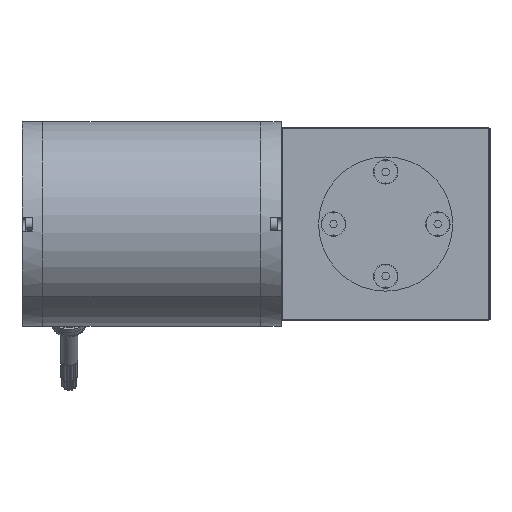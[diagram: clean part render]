
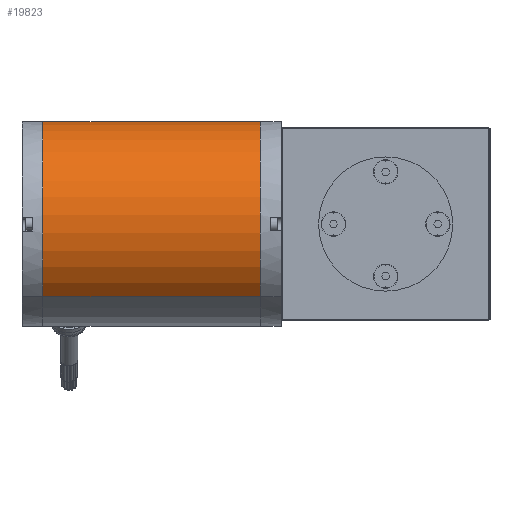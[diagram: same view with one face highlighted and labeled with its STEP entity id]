
A CAD part, left-side view. The second image highlights one B-rep face of the part: STEP entity #19823.
In plain terms, the highlighted cylindrical face has radius 43.69 mm (diameter 87.38 mm), a partial arc.
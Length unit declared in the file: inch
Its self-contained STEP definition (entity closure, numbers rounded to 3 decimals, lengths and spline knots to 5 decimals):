
#12 = ORIENTED_EDGE ( 'NONE', *, *, #26331, .F. ) ;
#1420 = EDGE_CURVE ( 'NONE', #47459, #30700, #18187, .T. ) ;
#3005 = DIRECTION ( 'NONE',  ( 0., 1., 0. ) ) ;
#5658 = CARTESIAN_POINT ( 'NONE',  ( 5.58728, 9.22161, 2.26635 ) ) ;
#7900 = ORIENTED_EDGE ( 'NONE', *, *, #32455, .F. ) ;
#11508 = DIRECTION ( 'NONE',  ( 0., 1., 0. ) ) ;
#11920 = EDGE_CURVE ( 'NONE', #30700, #18951, #51555, .T. ) ;
#13408 = CARTESIAN_POINT ( 'NONE',  ( 4.371, 0.7065, 1.05007 ) ) ;
#15319 = DIRECTION ( 'NONE',  ( 0., -1., 0. ) ) ;
#18187 = LINE ( 'NONE', #32037, #39201 ) ;
#18951 = VERTEX_POINT ( 'NONE', #52663 ) ;
#19823 = ADVANCED_FACE ( 'NONE', ( #47130 ), #30829, .T. ) ;
#22124 = EDGE_LOOP ( 'NONE', ( #12, #7900, #22946, #31164 ) ) ;
#22570 = AXIS2_PLACEMENT_3D ( 'NONE', #50620, #15319, #46453 ) ;
#22835 = DIRECTION ( 'NONE',  ( -0.707, 0., -0.707 ) ) ;
#22946 = ORIENTED_EDGE ( 'NONE', *, *, #1420, .T. ) ;
#24284 = VECTOR ( 'NONE', #3005, 39.37008 ) ;
#26319 = DIRECTION ( 'NONE',  ( 0., 1., 0. ) ) ;
#26331 = EDGE_CURVE ( 'NONE', #51140, #18951, #35782, .T. ) ;
#30700 = VERTEX_POINT ( 'NONE', #5658 ) ;
#30829 = CYLINDRICAL_SURFACE ( 'NONE', #52678, 1.72008 ) ;
#31164 = ORIENTED_EDGE ( 'NONE', *, *, #11920, .T. ) ;
#31532 = DIRECTION ( 'NONE',  ( 0., -1., 0. ) ) ;
#32037 = CARTESIAN_POINT ( 'NONE',  ( 5.58728, 0.7065, 2.26635 ) ) ;
#32455 = EDGE_CURVE ( 'NONE', #47459, #51140, #36724, .T. ) ;
#33797 = CARTESIAN_POINT ( 'NONE',  ( 3.15472, 0.7065, -0.16621 ) ) ;
#34796 = AXIS2_PLACEMENT_3D ( 'NONE', #53584, #31532, #22835 ) ;
#35782 = LINE ( 'NONE', #33797, #24284 ) ;
#36724 = CIRCLE ( 'NONE', #22570, 1.72008 ) ;
#39201 = VECTOR ( 'NONE', #11508, 39.37008 ) ;
#40661 = CARTESIAN_POINT ( 'NONE',  ( 3.15472, 5.57161, -0.16621 ) ) ;
#43410 = DIRECTION ( 'NONE',  ( 0.707, 0., 0.707 ) ) ;
#46453 = DIRECTION ( 'NONE',  ( -0.707, 0., -0.707 ) ) ;
#47130 = FACE_OUTER_BOUND ( 'NONE', #22124, .T. ) ;
#47459 = VERTEX_POINT ( 'NONE', #52901 ) ;
#50620 = CARTESIAN_POINT ( 'NONE',  ( 4.371, 5.57161, 1.05007 ) ) ;
#51140 = VERTEX_POINT ( 'NONE', #40661 ) ;
#51555 = CIRCLE ( 'NONE', #34796, 1.72008 ) ;
#52663 = CARTESIAN_POINT ( 'NONE',  ( 3.15472, 9.22161, -0.16621 ) ) ;
#52678 = AXIS2_PLACEMENT_3D ( 'NONE', #13408, #26319, #43410 ) ;
#52901 = CARTESIAN_POINT ( 'NONE',  ( 5.58728, 5.57161, 2.26635 ) ) ;
#53584 = CARTESIAN_POINT ( 'NONE',  ( 4.371, 9.22161, 1.05007 ) ) ;
